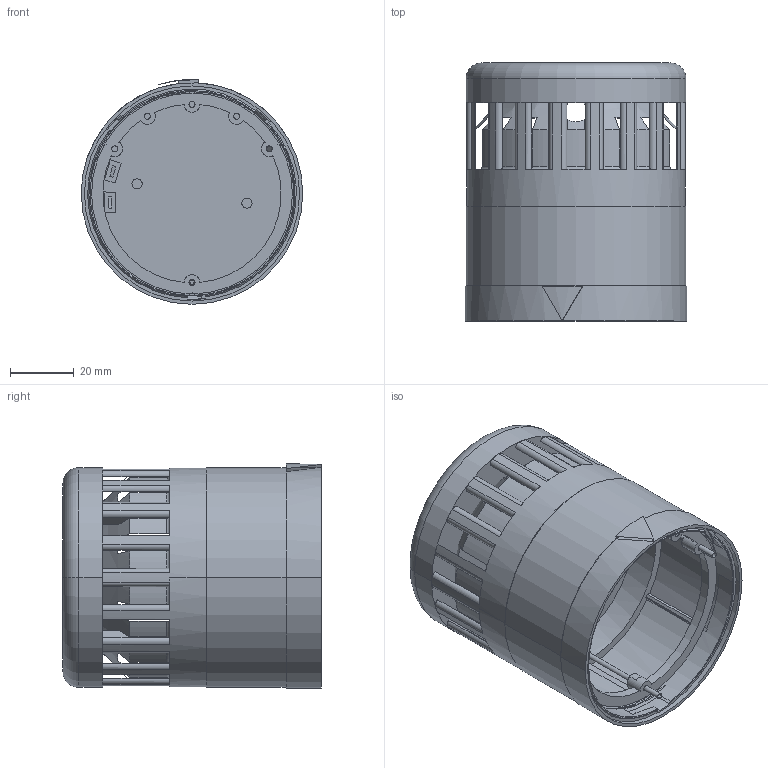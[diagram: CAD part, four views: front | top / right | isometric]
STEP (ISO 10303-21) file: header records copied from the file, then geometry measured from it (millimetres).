
FILE_DESCRIPTION((''),'2;1');
FILE_NAME('855T-SA1_SW0003','2008-08-20T',('WJPreisc'),('Rockwell Automation'),'PRO/ENGINEER BY PARAMETRIC TECHNOLOGY CORPORATION, 2005110','PRO/ENGINEER BY PARAMETRIC TECHNOLOGY CORPORATION, 2005110','');
FILE_SCHEMA(('CONFIG_CONTROL_DESIGN'));
Length unit declared in the file: millimetre
Products named in the file (1): 855T-SA1_SW0003
Bounding box: 69.5 x 81 x 70.45 mm (x, y, z)
Surface area: 41628.6 mm2 (no closed solid volume)
Topology: 0 solids, 33 shells, 196 faces, 1191 edges, 996 vertices
Faces by surface type: cylinder 96, plane 65, torus 24, cone 11
Entity records: 11896 total; most frequent: CARTESIAN_POINT 2679, DIRECTION 2074, ORIENTED_EDGE 1521, EDGE_CURVE 1191, VERTEX_POINT 996, AXIS2_PLACEMENT_3D 750, VECTOR 574, LINE 574
